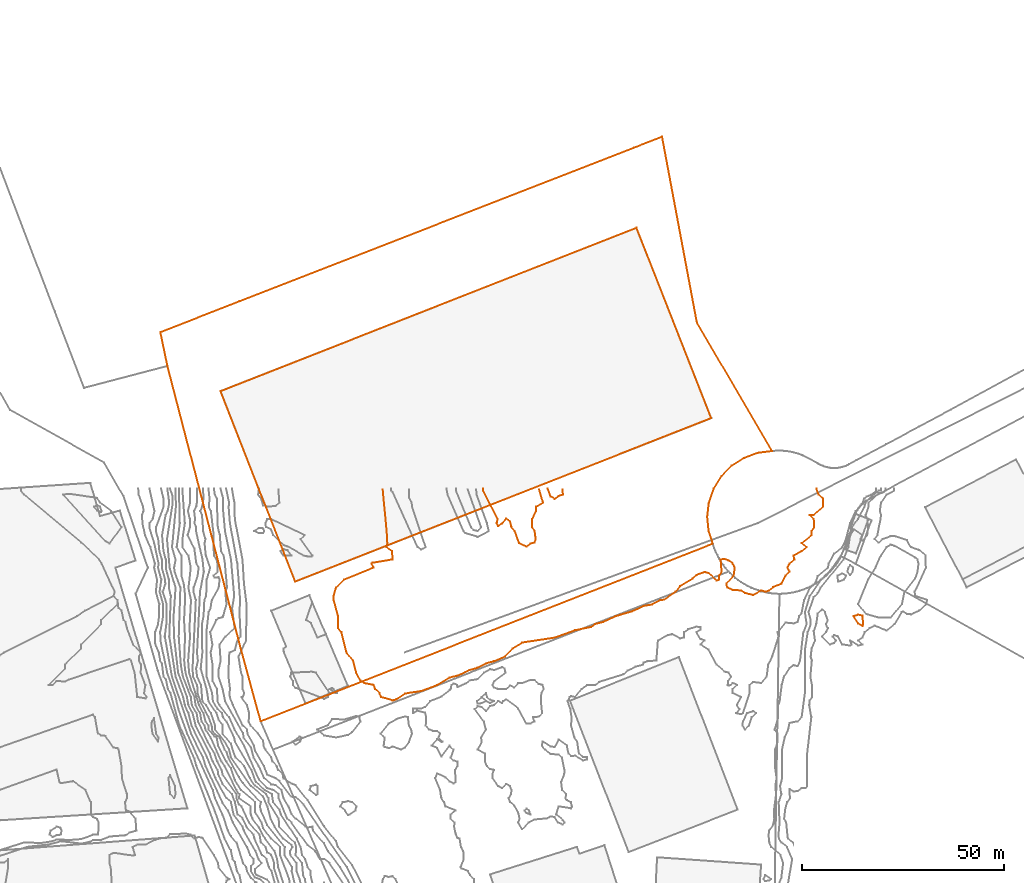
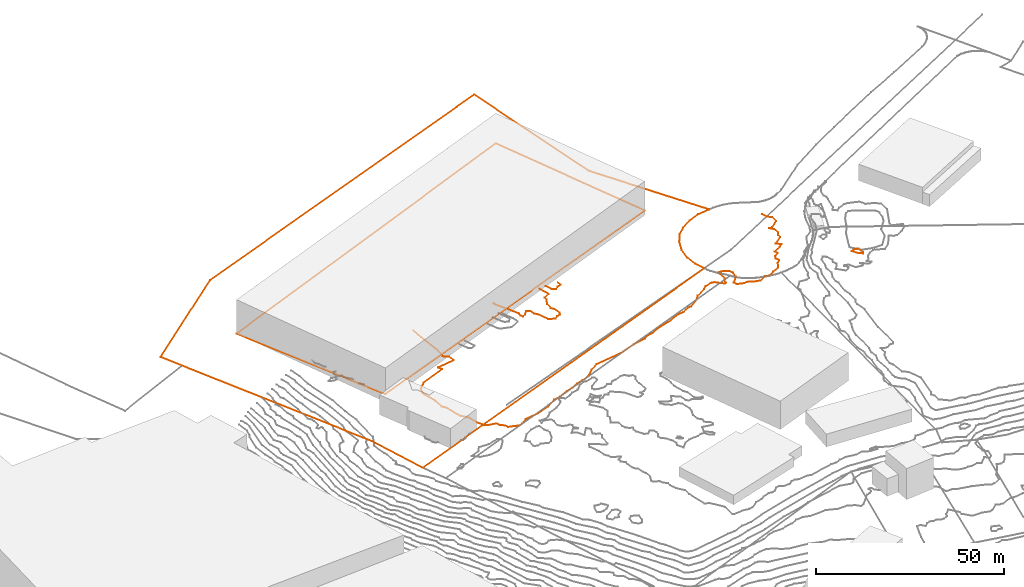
# Not in any storey, part 344 of 419: 6 proxies.
"""IFC2X3 model written with IfcOpenShell, lengths in metres."""

from ifc_helpers import new_model, entity, si_unit, frame, origin_with_axes, place, context, subcontext, project, element, save


model = new_model("IFC2X3")

# Units and contexts
model_context = context("Model", 3, precision=1e-05, world=origin_with_axes())
body_context = subcontext(model_context, "Body", "Model", "MODEL_VIEW")
ifc_project = project(units=[si_unit("AREAUNIT", "SQUARE_METRE"), si_unit("LENGTHUNIT", "METRE")], contexts=[model_context])

# Proxies
proxy_1_placement = place(None, frame((294.6920204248, 1071.0376909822, 33.1030014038), z_axis=(0.0, 0.0, 1.0), x_axis=(1.0, 0.0, 0.0)))
element("IfcBuildingElementProxy", 1, at=proxy_1_placement, Name="Cadastre 268", ObjectType="NOTDEFINED", context=body_context, shape_type="GeometricCurveSet", body=[
    entity("IfcGeometricCurveSet", [entity("IfcPolyline", [entity("IfcCartesianPoint", [24.78, -96.1299999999, 13.7265907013]), entity("IfcCartesianPoint", [19.8400000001, -78.0399999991, 13.0641186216]), entity("IfcCartesianPoint", [1.75, -8.3499999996, 1.6704988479]), entity("IfcCartesianPoint", [0.0, 0.0, 0.0]), entity("IfcCartesianPoint", [19.6000000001, 7.6400000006, 13.4269973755]), entity("IfcCartesianPoint", [116.9700000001, 45.5600000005, 12.3969985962]), entity("IfcCartesianPoint", [123.92, 48.2700000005, 12.3661997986]), entity("IfcCartesianPoint", [132.54, 2.3900000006, 12.4497998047]), entity("IfcCartesianPoint", [151.11, -29.3699999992, 12.7011979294]), entity("IfcCartesianPoint", [147.54, -29.8199999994, 12.6433992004]), entity("IfcCartesianPoint", [144.15, -31.0599999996, 12.5969974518]), entity("IfcCartesianPoint", [141.11, -33.0, 12.5269996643]), entity("IfcCartesianPoint", [138.5800000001, -35.5699999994, 12.8977980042]), entity("IfcCartesianPoint", [136.6800000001, -38.6199999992, 12.9099990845]), entity("IfcCartesianPoint", [135.4800000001, -42.0399999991, 12.6313193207]), entity("IfcCartesianPoint", [135.0700000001, -45.6199999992, 12.6108618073]), entity("IfcCartesianPoint", [135.4500000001, -49.1999999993, 12.5867776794]), entity("IfcCartesianPoint", [136.4600000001, -52.25, 12.6316795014]), entity("IfcCartesianPoint", [24.78, -96.1299999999, 13.7265907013])])]),
])
proxy_2_placement = place(None, frame((309.5420204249, 1056.4476909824, 44.2980016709), z_axis=(0.0, 0.0, 1.0), x_axis=(1.0, 0.0, 0.0)))
element("IfcBuildingElementProxy", 2, at=proxy_2_placement, Name="Cadastre 269", ObjectType="NOTDEFINED", context=body_context, shape_type="GeometricCurveSet", body=[
    entity("IfcGeometricCurveSet", [entity("IfcPolyline", [entity("IfcCartesianPoint", [18.47, -47.0199999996, 2.4784758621]), entity("IfcCartesianPoint", [0.0, 0.0, 0.0]), entity("IfcCartesianPoint", [102.74, 40.3700000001, 1.2019983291]), entity("IfcCartesianPoint", [121.21, -6.6399999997, 1.4979997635]), entity("IfcCartesianPoint", [18.47, -47.0199999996, 2.4784758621])])]),
])
proxy_3_placement = place(None, frame((390.3777424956, 1032.3976909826, 46.0), z_axis=(0.0, 0.0, 1.0), x_axis=(1.0, 0.0, 0.0)))
element("IfcBuildingElementProxy", 3, at=proxy_3_placement, Name="Contour 46.0 m", ObjectType="NOTDEFINED", context=body_context, shape_type="GeometricCurveSet", body=[
    entity("IfcGeometricCurveSet", [entity("IfcPolyline", [entity("IfcCartesianPoint", [3.603185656, 0.0, 0.0]), entity("IfcCartesianPoint", [3.7618891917, -1.5, 0.0]), entity("IfcCartesianPoint", [2.7142779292, -1.8030275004, 0.0]), entity("IfcCartesianPoint", [1.7142779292, -2.5526326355, 0.0]), entity("IfcCartesianPoint", [0.7142779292, -1.9285558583, 0.0]), entity("IfcCartesianPoint", [0.0, 0.0, 0.0])])]),
])
proxy_4_placement = place(None, frame((374.4253537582, 1031.8976909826, 46.0), z_axis=(0.0, 0.0, 1.0), x_axis=(1.0, 0.0, 0.0)))
element("IfcBuildingElementProxy", 4, at=proxy_4_placement, Name="Contour 46.0 m", ObjectType="NOTDEFINED", context=body_context, shape_type="GeometricCurveSet", body=[
    entity("IfcGeometricCurveSet", [entity("IfcPolyline", [entity("IfcCartesianPoint", [13.7777801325, 0.5, 0.0]), entity("IfcCartesianPoint", [14.8046004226, -3.0, 0.0]), entity("IfcCartesianPoint", [13.0952367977, -4.0, 0.0]), entity("IfcCartesianPoint", [13.122804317, -5.0, 0.0]), entity("IfcCartesianPoint", [12.0848482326, -7.0, 0.0]), entity("IfcCartesianPoint", [12.0866648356, -9.0, 0.0]), entity("IfcCartesianPoint", [12.7304942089, -10.0, 0.0]), entity("IfcCartesianPoint", [12.9743634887, -12.0, 0.0]), entity("IfcCartesianPoint", [12.6666666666, -12.7999999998, 0.0]), entity("IfcCartesianPoint", [11.6666666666, -13.1249821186, 0.0]), entity("IfcCartesianPoint", [10.6666666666, -13.8750178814, 0.0]), entity("IfcCartesianPoint", [8.8888935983, -13.0, 0.0]), entity("IfcCartesianPoint", [7.8188402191, -10.0, 0.0]), entity("IfcCartesianPoint", [6.9696941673, -9.0, 0.0]), entity("IfcCartesianPoint", [6.6666666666, -7.6153880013, 0.0]), entity("IfcCartesianPoint", [5.6666666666, -6.967747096, 0.0]), entity("IfcCartesianPoint", [4.6666666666, -8.1249821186, 0.0]), entity("IfcCartesianPoint", [3.6666666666, -8.75, 0.0]), entity("IfcCartesianPoint", [3.3508740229, -8.0, 0.0]), entity("IfcCartesianPoint", [3.5833465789, -7.0, 0.0]), entity("IfcCartesianPoint", [0.0, 0.0, 0.0]), entity("IfcCartesianPoint", [0.0, 0.5, 0.0])])]),
])
proxy_5_placement = place(None, frame((465.9101990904, 1000.8976909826, 50.0), z_axis=(0.0, 0.0, 1.0), x_axis=(1.0, 0.0, 0.0)))
element("IfcBuildingElementProxy", 5, at=proxy_5_placement, Name="Contour 50.0 m", ObjectType="NOTDEFINED", context=body_context, shape_type="GeometricCurveSet", body=[
    entity("IfcGeometricCurveSet", [entity("IfcPolyline", [entity("IfcCartesianPoint", [2.4040482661, -2.0, 0.0]), entity("IfcCartesianPoint", [2.1818213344, -2.5000124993, 0.0]), entity("IfcCartesianPoint", [1.1818213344, -1.8333280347, 0.0]), entity("IfcCartesianPoint", [0.0, 0.0, 0.0]), entity("IfcCartesianPoint", [1.1818213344, 0.3513516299, 0.0]), entity("IfcCartesianPoint", [2.1818213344, 0.0972216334, 0.0]), entity("IfcCartesianPoint", [2.4040482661, -2.0, 0.0])])]),
])
proxy_6_placement = place(None, frame((337.4703982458, 1005.8976909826, 46.0), z_axis=(0.0, 0.0, 1.0), x_axis=(1.0, 0.0, 0.0)))
element("IfcBuildingElementProxy", 6, at=proxy_6_placement, Name="Contour 46.0 m", ObjectType="NOTDEFINED", context=body_context, shape_type="GeometricCurveSet", body=[
    entity("IfcGeometricCurveSet", [entity("IfcPolyline", [entity("IfcCartesianPoint", [12.1216471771, 26.5, 0.0]), entity("IfcCartesianPoint", [13.1216471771, 16.0, 0.0]), entity("IfcCartesianPoint", [13.2883312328, 13.0, 0.0]), entity("IfcCartesianPoint", [13.0501780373, 12.0, 0.0]), entity("IfcCartesianPoint", [14.421652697, 11.0, 0.0]), entity("IfcCartesianPoint", [14.6216421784, 9.0, 0.0]), entity("IfcCartesianPoint", [9.6216221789, 8.1666719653, 0.0]), entity("IfcCartesianPoint", [9.3716221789, 8.0, 0.0]), entity("IfcCartesianPoint", [9.929319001, 7.0, 0.0]), entity("IfcCartesianPoint", [2.6216221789, 4.0270225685, 0.0]), entity("IfcCartesianPoint", [0.5716212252, 2.0, 0.0]), entity("IfcCartesianPoint", [0.0, 0.0, 0.0]), entity("IfcCartesianPoint", [0.0333849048, -1.0, 0.0]), entity("IfcCartesianPoint", [1.0966214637, -5.0, 0.0]), entity("IfcCartesianPoint", [1.1600808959, -8.0, 0.0]), entity("IfcCartesianPoint", [1.9423741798, -9.0, 0.0]), entity("IfcCartesianPoint", [3.2005711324, -14.0, 0.0]), entity("IfcCartesianPoint", [4.8416233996, -16.0, 0.0]), entity("IfcCartesianPoint", [5.5903773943, -19.0, 0.0]), entity("IfcCartesianPoint", [6.6216221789, -20.9032289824, 0.0]), entity("IfcCartesianPoint", [7.6216221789, -21.5964918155, 0.0]), entity("IfcCartesianPoint", [9.9216145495, -22.0, 0.0]), entity("IfcCartesianPoint", [10.25797951, -23.0, 0.0]), entity("IfcCartesianPoint", [11.3216298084, -24.0, 0.0]), entity("IfcCartesianPoint", [11.7644559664, -25.0, 0.0]), entity("IfcCartesianPoint", [14.6216221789, -25.8235346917, 0.0]), entity("IfcCartesianPoint", [15.6216221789, -25.5161262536, 0.0]), entity("IfcCartesianPoint", [17.6216221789, -24.1428590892, 0.0]), entity("IfcCartesianPoint", [21.6216221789, -23.5217355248, 0.0]), entity("IfcCartesianPoint", [25.6216221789, -22.0344773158, 0.0]), entity("IfcCartesianPoint", [28.6216221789, -20.1929836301, 0.0]), entity("IfcCartesianPoint", [30.6216221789, -19.7187492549, 0.0]), entity("IfcCartesianPoint", [33.6216221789, -18.3333365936, 0.0]), entity("IfcCartesianPoint", [35.6216221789, -17.7567556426, 0.0]), entity("IfcCartesianPoint", [37.6216221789, -16.6749985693, 0.0]), entity("IfcCartesianPoint", [39.6216221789, -16.1600036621, 0.0]), entity("IfcCartesianPoint", [42.3139253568, -15.0, 0.0]), entity("IfcCartesianPoint", [44.2216221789, -13.0, 0.0]), entity("IfcCartesianPoint", [46.6216221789, -11.5384547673, 0.0]), entity("IfcCartesianPoint", [54.6216221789, -10.333333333, 0.0]), entity("IfcCartesianPoint", [59.6216221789, -8.4999972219, 0.0]), entity("IfcCartesianPoint", [63.6216221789, -7.6923031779, 0.0]), entity("IfcCartesianPoint", [64.6216221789, -6.9565289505, 0.0]), entity("IfcCartesianPoint", [66.6216221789, -6.4516144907, 0.0]), entity("IfcCartesianPoint", [69.6216221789, -5.035708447, 0.0]), entity("IfcCartesianPoint", [73.6216221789, -3.8611134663, 0.0]), entity("IfcCartesianPoint", [76.6216221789, -2.4999964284, 0.0]), entity("IfcCartesianPoint", [78.6216221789, -2.1470565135, 0.0]), entity("IfcCartesianPoint", [80.6216221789, -1.0769242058, 0.0]), entity("IfcCartesianPoint", [81.6216221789, -0.9444526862, 0.0]), entity("IfcCartesianPoint", [84.4637327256, 1.0, 0.0]), entity("IfcCartesianPoint", [85.6216221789, 2.4166640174, 0.0]), entity("IfcCartesianPoint", [88.6216221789, 4.2500059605, 0.0]), entity("IfcCartesianPoint", [89.6216221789, 5.1666719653, 0.0]), entity("IfcCartesianPoint", [91.6216221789, 5.8749970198, 0.0]), entity("IfcCartesianPoint", [92.6216221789, 5.6249910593, 0.0]), entity("IfcCartesianPoint", [94.6216221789, 3.750007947, 0.0]), entity("IfcCartesianPoint", [95.2216069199, 4.0, 0.0]), entity("IfcCartesianPoint", [95.2883029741, 5.0, 0.0]), entity("IfcCartesianPoint", [95.8523947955, 6.0, 0.0]), entity("IfcCartesianPoint", [95.6216221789, 9.000016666, 0.0]), entity("IfcCartesianPoint", [96.6216221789, 9.0908964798, 0.0]), entity("IfcCartesianPoint", [97.6216221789, 8.7272853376, 0.0]), entity("IfcCartesianPoint", [98.6216312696, 8.0, 0.0]), entity("IfcCartesianPoint", [99.0953106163, 7.0, 0.0]), entity("IfcCartesianPoint", [98.8359001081, 5.0, 0.0]), entity("IfcCartesianPoint", [97.021622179, 3.0, 0.0]), entity("IfcCartesianPoint", [97.2883312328, 2.0, 0.0]), entity("IfcCartesianPoint", [98.6216221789, 1.4285558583, 0.0]), entity("IfcCartesianPoint", [100.6216221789, 1.3333192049, 0.0]), entity("IfcCartesianPoint", [101.6216221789, 0.7000076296, 0.0]), entity("IfcCartesianPoint", [103.6216221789, 0.1999694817, 0.0]), entity("IfcCartesianPoint", [105.6216221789, 1.3333192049, 0.0]), entity("IfcCartesianPoint", [106.6216221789, 1.000033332, 0.0]), entity("IfcCartesianPoint", [107.6216221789, 1.3332909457, 0.0]), entity("IfcCartesianPoint", [108.6216221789, 2.1999694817, 0.0]), entity("IfcCartesianPoint", [110.6215888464, 3.0, 0.0]), entity("IfcCartesianPoint", [111.6215221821, 5.0, 0.0]), entity("IfcCartesianPoint", [112.6215221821, 6.0, 0.0]), entity("IfcCartesianPoint", [112.1215721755, 7.0, 0.0]), entity("IfcCartesianPoint", [112.6216221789, 8.000033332, 0.0]), entity("IfcCartesianPoint", [113.8215916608, 9.0, 0.0]), entity("IfcCartesianPoint", [113.6215971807, 10.0, 0.0]), entity("IfcCartesianPoint", [115.6216221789, 11.0000499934, 0.0]), entity("IfcCartesianPoint", [116.7882676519, 12.0, 0.0]), entity("IfcCartesianPoint", [115.6215888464, 13.0, 0.0]), entity("IfcCartesianPoint", [118.1215971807, 15.0, 0.0]), entity("IfcCartesianPoint", [118.1215721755, 16.0, 0.0]), entity("IfcCartesianPoint", [118.7466042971, 17.0, 0.0]), entity("IfcCartesianPoint", [118.6215971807, 19.0, 0.0]), entity("IfcCartesianPoint", [117.6216055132, 20.0, 0.0]), entity("IfcCartesianPoint", [118.6216221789, 20.000033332, 0.0]), entity("IfcCartesianPoint", [120.8715983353, 22.0, 0.0]), entity("IfcCartesianPoint", [120.8715983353, 24.0, 0.0]), entity("IfcCartesianPoint", [119.8215916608, 25.0, 0.0]), entity("IfcCartesianPoint", [119.2883312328, 26.5, 0.0])])]),
])

save(model, "model.ifc")
